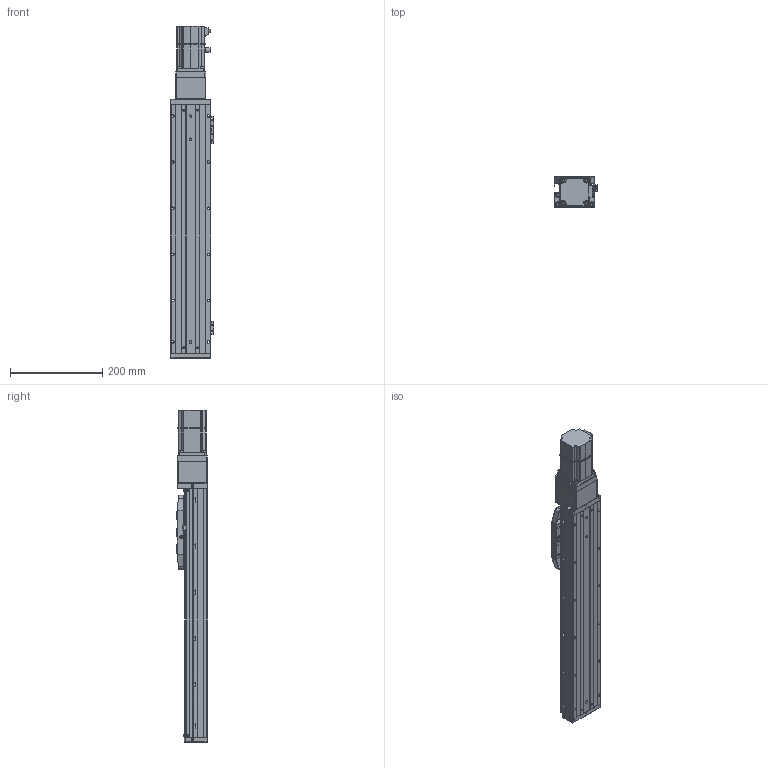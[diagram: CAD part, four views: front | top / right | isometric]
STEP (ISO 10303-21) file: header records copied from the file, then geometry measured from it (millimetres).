
FILE_DESCRIPTION (( 'STEP AP203' ), '1' );
FILE_NAME ('CTHA86-350-BC-M20-C4L.step', '2022-04-26T00:46:42', ( '微软用户' ), ( '微软中国' ), 'SwSTEP 2.0', 'SolidWorks 2020', '' );
FILE_SCHEMA (( 'CONFIG_CONTROL_DESIGN' ));
Length unit declared in the file: millimetre
Products named in the file (22): CTHA60-021; CTHA86-013; CTHA86-030; KTHA86-001_540; GBT77-2000 M3×3; CTHA86-027; CTHA86-350-BC-M20-C4L; KTHA86-004; GBT 70.1-M3×20; CTHA86-006-1_CTHA86-006-2; KTHA86-005; GBT70.1 M5℅16; _X2_4E0983F1_X0_200W_1; GB¨uT 70.2-M3¡Á5_M3¡Á6; GBT 70.1-M3×16; GBT 70.3-M3℅6; EE_SX911P_R; GBT 70.1-M3℅6; CTHA86-002; CTHA60-017; CTHA60-016; CTHA86-031
Assembly tree (65 placements, depth 2):
  CTHA86-350-BC-M20-C4L
    KTHA86-001_540
    KTHA86-004
    KTHA86-005
    GB¨uT 70.2-M3¡Á5_M3¡Á6  x10
    EE_SX911P_R  x3
    CTHA60-017  x3
    CTHA60-021  x2
    GBT77-2000 M3×3  x6
    GBT 70.1-M3×20
    GBT70.1 M5℅16  x14
    GBT 70.1-M3×16
    GBT 70.1-M3℅6  x6
    CTHA60-016  x2
    CTHA86-013
    CTHA86-027
    CTHA86-006-1_CTHA86-006-2
    _X2_4E0983F1_X0_200W_1
    GBT 70.3-M3℅6  x6
    CTHA86-002
    CTHA86-031
    CTHA86-030  x2
Bounding box: 93.82 x 68 x 720.5 mm (x, y, z)
Volume: 2495150.8 mm3; surface area: 458426.2 mm2
Topology: 67 solids, 67 shells, 2674 faces, 6359 edges, 3904 vertices
Faces by surface type: plane 1392, cylinder 685, cone 384, torus 120, bspline 69, sphere 24
Entity records: 46337 total; most frequent: CARTESIAN_POINT 8624, DIRECTION 7268, ORIENTED_EDGE 6974, EDGE_CURVE 3487, AXIS2_PLACEMENT_3D 2484, LINE 2300, VECTOR 2300, VERTEX_POINT 2182
